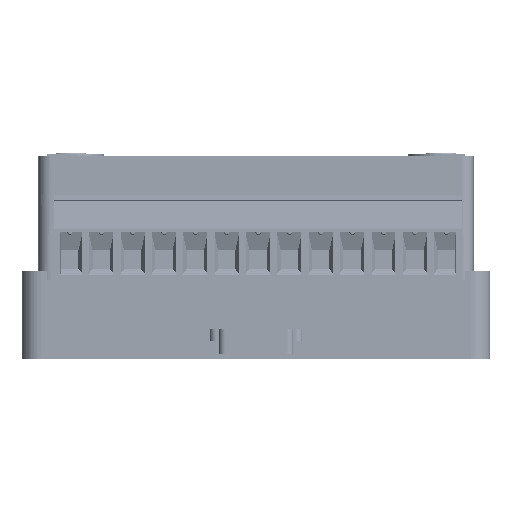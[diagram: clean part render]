
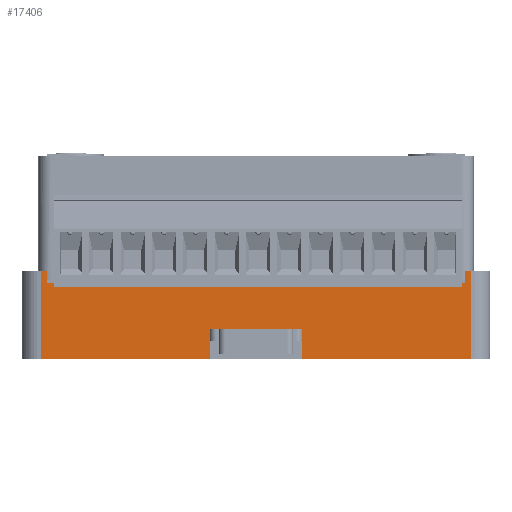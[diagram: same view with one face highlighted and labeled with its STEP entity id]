
A CAD part, front view. The second image highlights one B-rep face of the part: STEP entity #17406.
In plain terms, the highlighted planar face has unit normal (0, -1, 0).
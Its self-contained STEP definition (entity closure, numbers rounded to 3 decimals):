
#17406=ADVANCED_FACE('',(#87342),#87344,.F.);
#87342=FACE_BOUND('',#87343,.T.);
#87343=EDGE_LOOP('',(#139505,#139506,#139507,#139508,#139509,#139510,#139511,#139512,
#139513,#139514,#139515,#139516,#139517,#139518,#139519,#139520));
#87344=PLANE('',#87345);
#87345=AXIS2_PLACEMENT_3D('',#87346,#87347,#87348);
#87346=CARTESIAN_POINT('',(-37.9,-51.95,14.4));
#87347=DIRECTION('',(0.,1.,0.));
#87348=DIRECTION('',(0.,0.,1.));
#139505=ORIENTED_EDGE('',*,*,#193223,.F.);
#139506=ORIENTED_EDGE('',*,*,#193224,.F.);
#139507=ORIENTED_EDGE('',*,*,#193225,.T.);
#139508=ORIENTED_EDGE('',*,*,#193226,.T.);
#139509=ORIENTED_EDGE('',*,*,#193227,.T.);
#139510=ORIENTED_EDGE('',*,*,#193037,.F.);
#139511=ORIENTED_EDGE('',*,*,#193069,.T.);
#139512=ORIENTED_EDGE('',*,*,#193067,.F.);
#139513=ORIENTED_EDGE('',*,*,#193066,.T.);
#139514=ORIENTED_EDGE('',*,*,#193053,.F.);
#139515=ORIENTED_EDGE('',*,*,#193228,.T.);
#139516=ORIENTED_EDGE('',*,*,#193229,.T.);
#139517=ORIENTED_EDGE('',*,*,#193230,.F.);
#139518=ORIENTED_EDGE('',*,*,#193231,.F.);
#139519=ORIENTED_EDGE('',*,*,#193232,.F.);
#139520=ORIENTED_EDGE('',*,*,#193073,.F.);
#193037=EDGE_CURVE('',#219400,#219402,#219403,.T.);
#193053=EDGE_CURVE('',#219429,#219421,#219431,.T.);
#193066=EDGE_CURVE('',#219449,#219421,#219451,.T.);
#193067=EDGE_CURVE('',#219449,#219452,#219453,.T.);
#193069=EDGE_CURVE('',#219400,#219452,#219455,.T.);
#193073=EDGE_CURVE('',#219459,#219461,#219462,.T.);
#193223=EDGE_CURVE('',#219696,#219459,#219697,.T.);
#193224=EDGE_CURVE('',#219698,#219696,#219699,.T.);
#193225=EDGE_CURVE('',#219698,#219700,#219701,.T.);
#193226=EDGE_CURVE('',#219700,#219702,#219703,.T.);
#193227=EDGE_CURVE('',#219702,#219402,#219704,.T.);
#193228=EDGE_CURVE('',#219429,#219705,#219706,.T.);
#193229=EDGE_CURVE('',#219705,#219707,#219708,.T.);
#193230=EDGE_CURVE('',#219709,#219707,#219710,.T.);
#193231=EDGE_CURVE('',#219711,#219709,#219712,.T.);
#193232=EDGE_CURVE('',#219461,#219711,#219713,.T.);
#219400=VERTEX_POINT('',#279745);
#219402=VERTEX_POINT('',#279749);
#219403=LINE('',#279750,#279751);
#219421=VERTEX_POINT('',#279792);
#219429=VERTEX_POINT('',#279809);
#219431=LINE('',#279814,#279815);
#219449=VERTEX_POINT('',#279856);
#219451=LINE('',#279860,#279861);
#219452=VERTEX_POINT('',#279863);
#219453=LINE('',#279864,#279865);
#219455=LINE('',#279870,#279871);
#219459=VERTEX_POINT('',#279880);
#219461=VERTEX_POINT('',#279884);
#219462=LINE('',#279885,#279886);
#219696=VERTEX_POINT('',#280440);
#219697=LINE('',#280441,#280442);
#219698=VERTEX_POINT('',#280444);
#219699=LINE('',#280445,#280446);
#219700=VERTEX_POINT('',#280448);
#219701=LINE('',#280449,#280450);
#219702=VERTEX_POINT('',#280452);
#219703=LINE('',#280453,#280454);
#219704=LINE('',#280456,#280457);
#219705=VERTEX_POINT('',#280459);
#219706=LINE('',#280460,#280461);
#219707=VERTEX_POINT('',#280463);
#219708=LINE('',#280464,#280465);
#219709=VERTEX_POINT('',#280467);
#219710=LINE('',#280468,#280469);
#219711=VERTEX_POINT('',#280471);
#219712=LINE('',#280472,#280473);
#219713=LINE('',#280475,#280476);
#279745=CARTESIAN_POINT('',(33.85,-51.95,14.4));
#279749=CARTESIAN_POINT('',(34.9,-51.95,14.4));
#279750=CARTESIAN_POINT('',(33.85,-51.95,14.4));
#279751=VECTOR('',#279752,1.);
#279752=DIRECTION('',(1.,0.,0.));
#279792=CARTESIAN_POINT('',(-33.85,-51.95,14.4));
#279809=CARTESIAN_POINT('',(-34.9,-51.95,14.4));
#279814=CARTESIAN_POINT('',(-34.9,-51.95,14.4));
#279815=VECTOR('',#279816,1.);
#279816=DIRECTION('',(1.,0.,0.));
#279856=CARTESIAN_POINT('',(-33.85,-51.95,12.4));
#279860=CARTESIAN_POINT('',(-33.85,-51.95,12.4));
#279861=VECTOR('',#279862,1.);
#279862=DIRECTION('',(0.,0.,1.));
#279863=CARTESIAN_POINT('',(33.85,-51.95,12.4));
#279864=CARTESIAN_POINT('',(-33.85,-51.95,12.4));
#279865=VECTOR('',#279866,1.);
#279866=DIRECTION('',(1.,0.,0.));
#279870=CARTESIAN_POINT('',(33.85,-51.95,14.4));
#279871=VECTOR('',#279872,1.);
#279872=DIRECTION('',(0.,0.,-1.));
#279880=CARTESIAN_POINT('',(4.,-51.95,5.));
#279884=CARTESIAN_POINT('',(-4.,-51.95,5.));
#279885=CARTESIAN_POINT('',(4.,-51.95,5.));
#279886=VECTOR('',#279887,1.);
#279887=DIRECTION('',(-1.,0.,0.));
#280440=CARTESIAN_POINT('',(6.936,-51.95,5.));
#280441=CARTESIAN_POINT('',(6.936,-51.95,5.));
#280442=VECTOR('',#280443,1.);
#280443=DIRECTION('',(-1.,0.,0.));
#280444=CARTESIAN_POINT('',(7.5,-51.95,5.));
#280445=CARTESIAN_POINT('',(7.5,-51.95,5.));
#280446=VECTOR('',#280447,1.);
#280447=DIRECTION('',(-1.,0.,0.));
#280448=CARTESIAN_POINT('',(7.5,-51.95,0.));
#280449=CARTESIAN_POINT('',(7.5,-51.95,5.));
#280450=VECTOR('',#280451,1.);
#280451=DIRECTION('',(0.,0.,-1.));
#280452=CARTESIAN_POINT('',(34.9,-51.95,0.));
#280453=CARTESIAN_POINT('',(7.5,-51.95,0.));
#280454=VECTOR('',#280455,1.);
#280455=DIRECTION('',(1.,0.,0.));
#280456=CARTESIAN_POINT('',(34.9,-51.95,0.));
#280457=VECTOR('',#280458,1.);
#280458=DIRECTION('',(0.,0.,1.));
#280459=CARTESIAN_POINT('',(-34.9,-51.95,0.));
#280460=CARTESIAN_POINT('',(-34.9,-51.95,14.4));
#280461=VECTOR('',#280462,1.);
#280462=DIRECTION('',(0.,0.,-1.));
#280463=CARTESIAN_POINT('',(-7.5,-51.95,0.));
#280464=CARTESIAN_POINT('',(-34.9,-51.95,0.));
#280465=VECTOR('',#280466,1.);
#280466=DIRECTION('',(1.,0.,0.));
#280467=CARTESIAN_POINT('',(-7.5,-51.95,5.));
#280468=CARTESIAN_POINT('',(-7.5,-51.95,5.));
#280469=VECTOR('',#280470,1.);
#280470=DIRECTION('',(0.,0.,-1.));
#280471=CARTESIAN_POINT('',(-6.936,-51.95,5.));
#280472=CARTESIAN_POINT('',(-6.936,-51.95,5.));
#280473=VECTOR('',#280474,1.);
#280474=DIRECTION('',(-1.,0.,0.));
#280475=CARTESIAN_POINT('',(-4.,-51.95,5.));
#280476=VECTOR('',#280477,1.);
#280477=DIRECTION('',(-1.,0.,0.));
